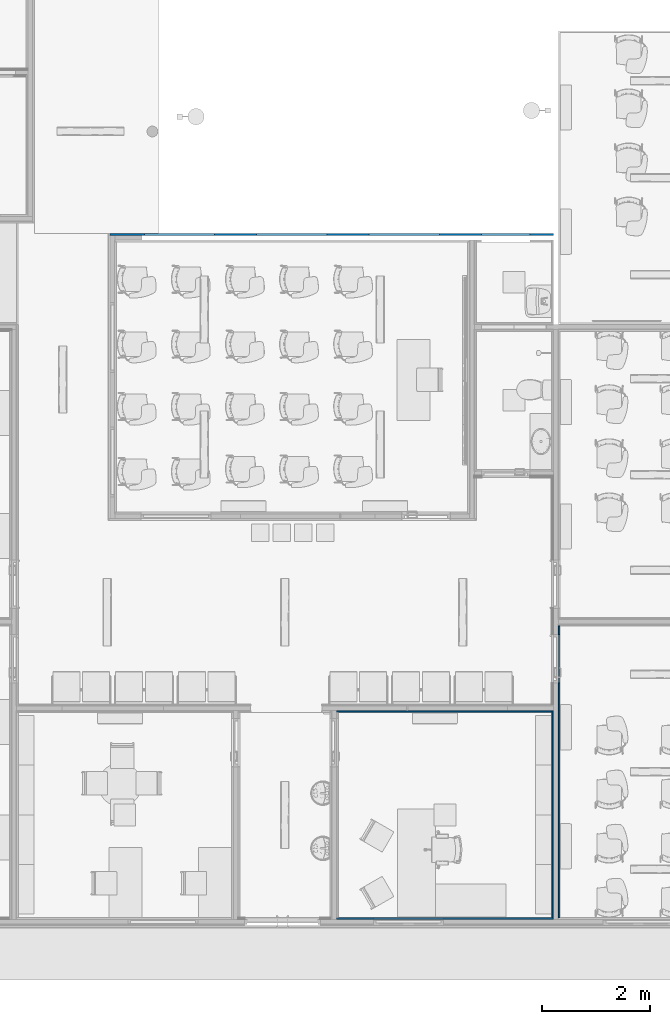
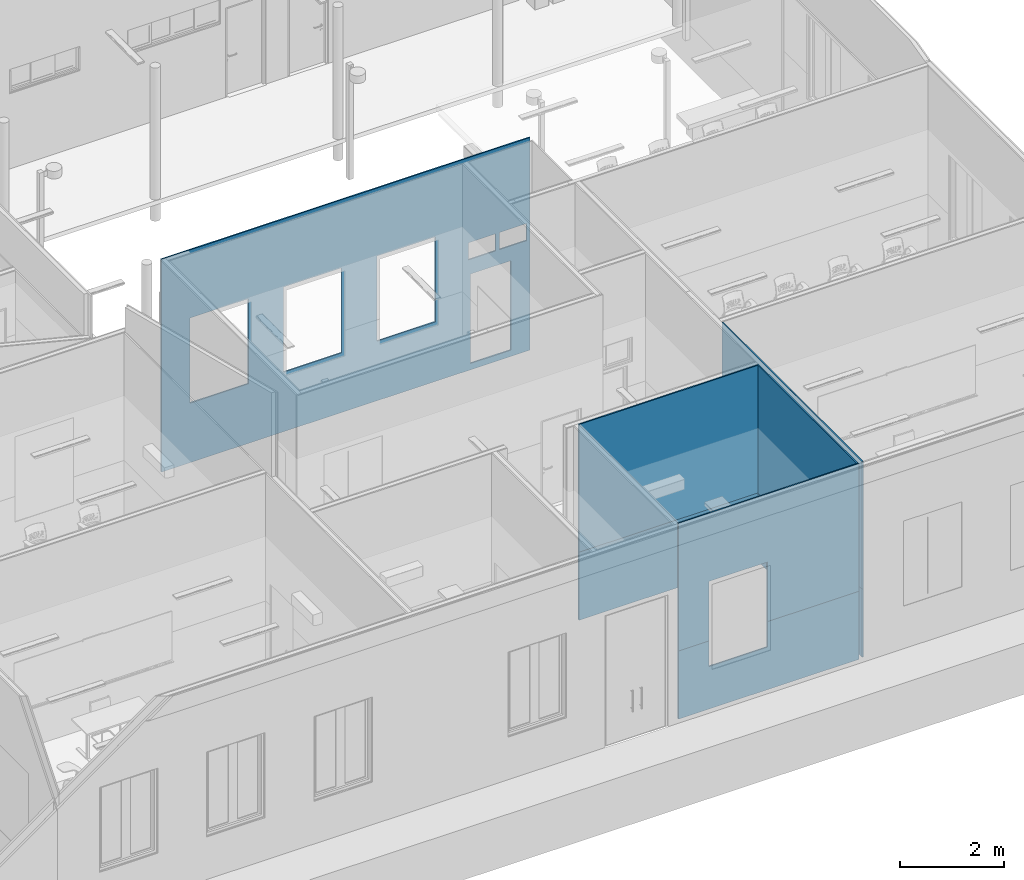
# One storey, part 17 of 155: 9 walls, 32 openings.
"""IFC2X3 building model written with IfcOpenShell, lengths in metres."""

from ifc_helpers import new_model, entity, si_unit, converted_unit, derived_unit, direction, frame, frame_2d, origin, place, context, subcontext, project, spatial, rectangle, extrude, material, layer, layer_set, layer_usage, type_object, element, save


model = new_model("IFC2X3")

# Units and contexts
model_context = context("Model", 3, precision=1e-05, world=origin(), true_north=direction((6.12303176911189e-17, 1.0)))
body_context = subcontext(model_context, "Body", "Model", "MODEL_VIEW")
ifc_project = project(units=[si_unit("LENGTHUNIT", "METRE"), si_unit("AREAUNIT", "SQUARE_METRE"), si_unit("VOLUMEUNIT", "CUBIC_METRE"), converted_unit("PLANEANGLEUNIT", "DEGREE", entity("IfcRatioMeasure", 0.0174532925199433), si_unit("PLANEANGLEUNIT", "RADIAN"), dimensions=[0, 0, 0, 0, 0, 0, 0]), si_unit("MASSUNIT", "GRAM", prefix="KILO"), derived_unit("MASSDENSITYUNIT", [(si_unit("MASSUNIT", "GRAM", prefix="KILO"), 1), (si_unit("LENGTHUNIT", "METRE"), -3)]), si_unit("TIMEUNIT", "SECOND"), si_unit("FREQUENCYUNIT", "HERTZ"), si_unit("THERMODYNAMICTEMPERATUREUNIT", "DEGREE_CELSIUS"), derived_unit("THERMALTRANSMITTANCEUNIT", [(si_unit("MASSUNIT", "GRAM", prefix="KILO"), 1), (si_unit("THERMODYNAMICTEMPERATUREUNIT", "KELVIN"), -1), (si_unit("TIMEUNIT", "SECOND"), -3)]), derived_unit("VOLUMETRICFLOWRATEUNIT", [(si_unit("LENGTHUNIT", "METRE"), 3), (si_unit("TIMEUNIT", "SECOND"), -1)]), si_unit("ELECTRICCURRENTUNIT", "AMPERE"), si_unit("ELECTRICVOLTAGEUNIT", "VOLT"), si_unit("POWERUNIT", "WATT"), si_unit("FORCEUNIT", "NEWTON", prefix="KILO"), si_unit("ILLUMINANCEUNIT", "LUX"), si_unit("LUMINOUSFLUXUNIT", "LUMEN"), si_unit("LUMINOUSINTENSITYUNIT", "CANDELA"), derived_unit("USERDEFINED", [(si_unit("MASSUNIT", "GRAM", prefix="KILO"), -1), (si_unit("LENGTHUNIT", "METRE"), -2), (si_unit("TIMEUNIT", "SECOND"), 3), (si_unit("LUMINOUSFLUXUNIT", "LUMEN"), 1)]), derived_unit("LINEARVELOCITYUNIT", [(si_unit("LENGTHUNIT", "METRE"), 1), (si_unit("TIMEUNIT", "SECOND"), -1)]), si_unit("PRESSUREUNIT", "PASCAL"), derived_unit("USERDEFINED", [(si_unit("LENGTHUNIT", "METRE"), -2), (si_unit("MASSUNIT", "GRAM", prefix="KILO"), 1), (si_unit("TIMEUNIT", "SECOND"), -2)])], contexts=[model_context])

# Site, building, storey
site_placement = place(None, frame((26.9889013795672, -17.5624287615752, 0.0)))
site = spatial("IfcSite", under=ifc_project, at=site_placement, Name="Default", CompositionType="ELEMENT")
building_placement = place(site_placement, origin())
building = spatial("IfcBuilding", under=site, at=building_placement, Name="C. C. L. Monsenhor Antônio Sampaio", CompositionType="ELEMENT")
storey_placement = place(building_placement, frame((0.0, 0.0, 1.19999999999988)))
storey = spatial("IfcBuildingStorey", under=building, at=storey_placement, Name="Nível 1.2", CompositionType="ELEMENT", Elevation=1.19999999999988)

# Wall, openings
ifc_material_1 = material(Name=".CERÂMICA 10x10 BRANCA")
ifc_layer_1 = layer(ifc_material_1, 0.0035)
ifc_material_2 = material(Name="Argamassa Colante")
ifc_layer_2 = layer(ifc_material_2, 0.02)
ifc_material_3 = material(Name="4")
ifc_layer_3 = layer(ifc_material_3, 0.0015)
ifc_material_4 = material(Name="3")
ifc_layer_4 = layer(ifc_material_4, 0.005)
ifc_layer_set_1 = layer_set([ifc_layer_1, ifc_layer_2, ifc_layer_3, ifc_layer_4], Name="Parede básica:ECeramica branca 10x10cm")
ifc_layer_usage_1 = layer_usage(ifc_layer_set_1, "AXIS2", "NEGATIVE", 0.015)
wall_type_1 = type_object("IfcWallType", Name="Parede básica:ECeramica branca 10x10cm", PredefinedType="STANDARD", material=ifc_layer_set_1)
wall_1_placement = place(storey_placement, frame((-0.250552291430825, -39.3180663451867, 0.0)))
wall_1 = element("IfcWallStandardCase", 1, at=wall_1_placement, inside=storey, type_object=wall_type_1, material=ifc_layer_usage_1, Name="Parede básica:ECeramica branca 10x10cm", ObjectType="Parede básica:ECeramica branca 10x10cm", context=body_context, shape_type="SweptSolid", body=[
    extrude(rectangle(XDim=4.01, YDim=0.0299999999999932, at=frame_2d((2.005, 0.0), x_axis=(-1.0, 0.0))), origin(), (0.0, 0.0, 1.0), 1.6),
])
opening_1_placement = place(wall_1_placement, origin())
element("IfcOpeningElement", 2, at=opening_1_placement, cuts=wall_1, Name="Parede básica:ECeramica branca 10x10cm", ObjectType="Opening", context=body_context, shape_type="SweptSolid", body=[
    extrude(rectangle(XDim=2.0, YDim=1.30000000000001, at=frame_2d((0.0, -3.88578058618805e-16), x_axis=(0.0, 1.0))), frame((1.33, -1.539, 2.0), z_axis=(0.0, 1.0, 0.0), x_axis=(-1.0, 0.0, 0.0)), (0.0, 0.0, 1.0), 3.04800000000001),
])
opening_2_placement = place(wall_1_placement, origin())
element("IfcOpeningElement", 3, at=opening_2_placement, cuts=wall_1, Name="Parede básica:ECeramica branca 10x10cm", ObjectType="Opening", context=body_context, shape_type="SweptSolid", body=[
    extrude(rectangle(XDim=3.09999999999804, YDim=1.4, at=frame_2d((-3.33066907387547e-16, 0.0), x_axis=(1.0, 0.0))), frame((-1.0, -1.539, 1.54999999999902), z_axis=(0.0, 1.0, 0.0), x_axis=(0.0, 0.0, 1.0)), (0.0, 0.0, 1.0), 3.04799999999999),
])
opening_3_placement = place(wall_1_placement, origin())
element("IfcOpeningElement", 4, at=opening_3_placement, cuts=wall_1, Name="Parede básica:ECeramica branca 10x10cm", ObjectType="Opening", context=body_context, shape_type="SweptSolid", body=[
    extrude(rectangle(XDim=2.0, YDim=1.30000000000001, at=frame_2d((1.66533453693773e-16, 0.0), x_axis=(1.0, 0.0))), frame((-12.2899999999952, -1.62899999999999, 2.0), z_axis=(0.0, 1.0, 0.0), x_axis=(0.0, 0.0, 1.0)), (0.0, 0.0, 1.0), 3.048),
])
opening_4_placement = place(wall_1_placement, origin())
element("IfcOpeningElement", 5, at=opening_4_placement, cuts=wall_1, Name="Parede básica:ECeramica branca 10x10cm", ObjectType="Opening", context=body_context, shape_type="SweptSolid", body=[
    extrude(rectangle(XDim=2.0, YDim=1.30000000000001, at=frame_2d((1.66533453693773e-16, 0.0), x_axis=(1.0, 0.0))), frame((-9.90999999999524, -1.629, 2.0), z_axis=(0.0, 1.0, 0.0), x_axis=(0.0, 0.0, 1.0)), (0.0, 0.0, 1.0), 3.048),
])
opening_5_placement = place(wall_1_placement, origin())
element("IfcOpeningElement", 6, at=opening_5_placement, cuts=wall_1, Name="Parede básica:ECeramica branca 10x10cm", ObjectType="Opening", context=body_context, shape_type="SweptSolid", body=[
    extrude(rectangle(XDim=2.0, YDim=1.30000000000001, at=frame_2d((1.66533453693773e-16, 0.0), x_axis=(1.0, 0.0))), frame((-7.51999999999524, -1.62899999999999, 2.0), z_axis=(0.0, 1.0, 0.0), x_axis=(0.0, 0.0, 1.0)), (0.0, 0.0, 1.0), 3.048),
])
opening_6_placement = place(wall_1_placement, origin())
element("IfcOpeningElement", 7, at=opening_6_placement, cuts=wall_1, Name="Parede básica:ECeramica branca 10x10cm", ObjectType="Opening", context=body_context, shape_type="SweptSolid", body=[
    extrude(rectangle(XDim=2.0, YDim=1.30000000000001, at=frame_2d((0.0, -3.88578058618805e-16), x_axis=(0.0, 1.0))), frame((-3.21000000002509, -1.62899999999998, 2.0), z_axis=(0.0, 1.0, 0.0), x_axis=(-1.0, 0.0, 0.0)), (0.0, 0.0, 1.0), 3.048),
])
opening_7_placement = place(wall_1_placement, origin())
element("IfcOpeningElement", 8, at=opening_7_placement, cuts=wall_1, Name="Parede básica:ECeramica branca 10x10cm", ObjectType="Opening", context=body_context, shape_type="SweptSolid", body=[
    extrude(rectangle(XDim=2.0, YDim=1.30000000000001, at=frame_2d((5.55111512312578e-16, -3.88578058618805e-16), x_axis=(0.0, 1.0))), frame((5.58, -1.53900000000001, 2.0), z_axis=(0.0, 1.0, 0.0), x_axis=(-1.0, 0.0, 0.0)), (0.0, 0.0, 1.0), 3.04800000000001),
])
opening_8_placement = place(wall_1_placement, origin())
element("IfcOpeningElement", 9, at=opening_8_placement, cuts=wall_1, Name="Parede básica:ECeramica branca 10x10cm", ObjectType="Opening", context=body_context, shape_type="SweptSolid", body=[
    extrude(rectangle(XDim=2.0, YDim=1.30000000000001, at=frame_2d((0.0, -3.88578058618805e-16), x_axis=(0.0, 1.0))), frame((7.96, -1.539, 2.0), z_axis=(0.0, 1.0, 0.0), x_axis=(-1.0, 0.0, 0.0)), (0.0, 0.0, 1.0), 3.048),
])
opening_9_placement = place(wall_1_placement, origin())
element("IfcOpeningElement", 10, at=opening_9_placement, cuts=wall_1, Name="Parede básica:ECeramica branca 10x10cm", ObjectType="Opening", context=body_context, shape_type="SweptSolid", body=[
    extrude(rectangle(XDim=2.0, YDim=1.30000000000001, at=frame_2d((-4.9960036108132e-16, -3.88578058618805e-16), x_axis=(0.0, 1.0))), frame((10.34, -1.53900000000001, 2.0), z_axis=(0.0, 1.0, 0.0), x_axis=(-1.0, 0.0, 0.0)), (0.0, 0.0, 1.0), 3.048),
])

ifc_layer_usage_2 = layer_usage(ifc_layer_set_1, "AXIS2", "NEGATIVE", 0.015)
wall_2_placement = place(storey_placement, frame((3.74444770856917, -39.3030663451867, 0.0), z_axis=(0.0, 0.0, 1.0), x_axis=(0.0, 1.0, 0.0)))
wall_2 = element("IfcWallStandardCase", 11, at=wall_2_placement, inside=storey, type_object=wall_type_1, material=ifc_layer_usage_2, Name="Parede básica:ECeramica branca 10x10cm", ObjectType="Parede básica:ECeramica branca 10x10cm", context=body_context, shape_type="SweptSolid", body=[
    extrude(rectangle(XDim=3.83000000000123, YDim=0.0299999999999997, at=frame_2d((1.91500000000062, 0.0), x_axis=(-1.0, 0.0))), origin(), (0.0, 0.0, 1.0), 1.6),
])
opening_10_placement = place(wall_2_placement, origin())
element("IfcOpeningElement", 12, at=opening_10_placement, cuts=wall_2, Name="Parede básica:ECeramica branca 10x10cm", ObjectType="Opening", context=body_context, shape_type="SweptSolid", body=[
    extrude(rectangle(XDim=2.09999999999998, YDim=0.899999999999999, at=frame_2d((-3.33066907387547e-16, -2.16493489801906e-15), x_axis=(1.0, 0.0))), frame((6.17000000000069, -1.629, 1.04999999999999), z_axis=(0.0, 1.0, 0.0), x_axis=(0.0, 0.0, 1.0)), (0.0, 0.0, 1.0), 3.048),
])
opening_11_placement = place(wall_2_placement, origin())
element("IfcOpeningElement", 13, at=opening_11_placement, cuts=wall_2, Name="Parede básica:ECeramica branca 10x10cm", ObjectType="Opening", context=body_context, shape_type="SweptSolid", body=[
    extrude(rectangle(XDim=2.09999999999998, YDim=0.899999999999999, at=frame_2d((2.16493489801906e-15, 0.0), x_axis=(0.0, 1.0))), frame((4.7900000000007, -1.629, 1.04999999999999), z_axis=(0.0, 1.0, 0.0), x_axis=(-1.0, 0.0, 0.0)), (0.0, 0.0, 1.0), 3.048),
])

# Wall
ifc_layer_usage_3 = layer_usage(ifc_layer_set_1, "AXIS2", "NEGATIVE", 0.015)
wall_3_placement = place(storey_placement, frame((3.72944770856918, -35.4880663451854, 0.0), z_axis=(0.0, 0.0, 1.0), x_axis=(-1.0, 0.0, 0.0)))
element("IfcWallStandardCase", 14, at=wall_3_placement, inside=storey, type_object=wall_type_1, material=ifc_layer_usage_3, Name="Parede básica:ECeramica branca 10x10cm", ObjectType="Parede básica:ECeramica branca 10x10cm", context=body_context, shape_type="SweptSolid", body=[
    extrude(rectangle(XDim=3.98, YDim=0.0300000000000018, at=frame_2d((1.99, 0.0), x_axis=(-1.0, 0.0))), origin(), (0.0, 0.0, 1.0), 1.6),
])

# Wall, openings
ifc_layer_usage_4 = layer_usage(ifc_layer_set_1, "AXIS2", "POSITIVE", -0.015)
wall_4_placement = place(storey_placement, frame((3.86444770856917, -39.3030663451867, 0.0), z_axis=(0.0, 0.0, 1.0), x_axis=(0.0, 1.0, 0.0)))
wall_4 = element("IfcWallStandardCase", 15, at=wall_4_placement, inside=storey, type_object=wall_type_1, material=ifc_layer_usage_4, Name="Parede básica:ECeramica branca 10x10cm", ObjectType="Parede básica:ECeramica branca 10x10cm", context=body_context, shape_type="SweptSolid", body=[
    extrude(rectangle(XDim=5.40000000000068, YDim=0.0299999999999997, at=frame_2d((2.70000000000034, 0.0), x_axis=(-1.0, 0.0))), origin(), (0.0, 0.0, 1.0), 1.6),
])
opening_12_placement = place(wall_4_placement, origin())
element("IfcOpeningElement", 16, at=opening_12_placement, cuts=wall_4, Name="Parede básica:ECeramica branca 10x10cm", ObjectType="Opening", context=body_context, shape_type="SweptSolid", body=[
    extrude(rectangle(XDim=2.09999999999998, YDim=0.899999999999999, at=frame_2d((2.16493489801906e-15, 0.0), x_axis=(0.0, 1.0))), frame((4.7900000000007, -1.509, 1.04999999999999), z_axis=(0.0, 1.0, 0.0), x_axis=(-1.0, 0.0, 0.0)), (0.0, 0.0, 1.0), 3.048),
])
opening_13_placement = place(wall_4_placement, origin())
element("IfcOpeningElement", 17, at=opening_13_placement, cuts=wall_4, Name="Parede básica:ECeramica branca 10x10cm", ObjectType="Opening", context=body_context, shape_type="SweptSolid", body=[
    extrude(rectangle(XDim=2.09999999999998, YDim=0.899999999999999, at=frame_2d((-3.33066907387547e-16, -2.16493489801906e-15), x_axis=(1.0, 0.0))), frame((6.17000000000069, -1.509, 1.04999999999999), z_axis=(0.0, 1.0, 0.0), x_axis=(0.0, 0.0, 1.0)), (0.0, 0.0, 1.0), 3.048),
])

ifc_material_5 = material(Name="Acabamento Branco")
ifc_layer_5 = layer(ifc_material_5, 0.0035)
ifc_material_6 = material(Name="Massa corrida")
ifc_layer_6 = layer(ifc_material_6, 0.02)
ifc_layer_7 = layer(ifc_material_3, 0.0015)
ifc_layer_8 = layer(ifc_material_4, 0.005)
ifc_layer_set_2 = layer_set([ifc_layer_5, ifc_layer_6, ifc_layer_7, ifc_layer_8], Name="Parede básica:EPintura Branca")
ifc_layer_usage_5 = layer_usage(ifc_layer_set_2, "AXIS2", "NEGATIVE", 0.015)
wall_type_2 = type_object("IfcWallType", Name="Parede básica:EPintura Branca", PredefinedType="STANDARD", material=ifc_layer_set_2)
wall_5_placement = place(storey_placement, frame((-0.250552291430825, -39.3180663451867, 1.6)))
wall_5 = element("IfcWallStandardCase", 18, at=wall_5_placement, inside=storey, type_object=wall_type_2, material=ifc_layer_usage_5, Name="Parede básica:EPintura Branca", ObjectType="Parede básica:EPintura Branca", context=body_context, shape_type="SweptSolid", body=[
    extrude(rectangle(XDim=4.01, YDim=0.0299999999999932, at=frame_2d((2.005, 0.0), x_axis=(-1.0, 0.0))), origin(), (0.0, 0.0, 1.0), 3.00000000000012),
])
opening_14_placement = place(wall_5_placement, origin())
element("IfcOpeningElement", 19, at=opening_14_placement, cuts=wall_5, Name="Parede básica:EPintura Branca", ObjectType="Opening", context=body_context, shape_type="SweptSolid", body=[
    extrude(rectangle(XDim=2.0, YDim=1.30000000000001, at=frame_2d((0.0, -3.88578058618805e-16), x_axis=(0.0, 1.0))), frame((1.33, -1.539, 0.400000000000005), z_axis=(0.0, 1.0, 0.0), x_axis=(-1.0, 0.0, 0.0)), (0.0, 0.0, 1.0), 3.04800000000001),
])
opening_15_placement = place(wall_5_placement, origin())
element("IfcOpeningElement", 20, at=opening_15_placement, cuts=wall_5, Name="Parede básica:EPintura Branca", ObjectType="Opening", context=body_context, shape_type="SweptSolid", body=[
    extrude(rectangle(XDim=3.09999999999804, YDim=1.4, at=frame_2d((-3.33066907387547e-16, 0.0), x_axis=(1.0, 0.0))), frame((-1.0, -1.539, -0.0500000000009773), z_axis=(0.0, 1.0, 0.0), x_axis=(0.0, 0.0, 1.0)), (0.0, 0.0, 1.0), 3.04799999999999),
])
opening_16_placement = place(wall_5_placement, origin())
element("IfcOpeningElement", 21, at=opening_16_placement, cuts=wall_5, Name="Parede básica:EPintura Branca", ObjectType="Opening", context=body_context, shape_type="SweptSolid", body=[
    extrude(rectangle(XDim=2.0, YDim=1.30000000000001, at=frame_2d((1.66533453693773e-16, 0.0), x_axis=(1.0, 0.0))), frame((-12.2899999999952, -1.62899999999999, 0.400000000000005), z_axis=(0.0, 1.0, 0.0), x_axis=(0.0, 0.0, 1.0)), (0.0, 0.0, 1.0), 3.048),
])
opening_17_placement = place(wall_5_placement, origin())
element("IfcOpeningElement", 22, at=opening_17_placement, cuts=wall_5, Name="Parede básica:EPintura Branca", ObjectType="Opening", context=body_context, shape_type="SweptSolid", body=[
    extrude(rectangle(XDim=2.0, YDim=1.30000000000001, at=frame_2d((1.66533453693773e-16, 0.0), x_axis=(1.0, 0.0))), frame((-9.90999999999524, -1.629, 0.400000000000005), z_axis=(0.0, 1.0, 0.0), x_axis=(0.0, 0.0, 1.0)), (0.0, 0.0, 1.0), 3.048),
])
opening_18_placement = place(wall_5_placement, origin())
element("IfcOpeningElement", 23, at=opening_18_placement, cuts=wall_5, Name="Parede básica:EPintura Branca", ObjectType="Opening", context=body_context, shape_type="SweptSolid", body=[
    extrude(rectangle(XDim=2.0, YDim=1.30000000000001, at=frame_2d((1.66533453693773e-16, 0.0), x_axis=(1.0, 0.0))), frame((-7.51999999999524, -1.62899999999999, 0.400000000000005), z_axis=(0.0, 1.0, 0.0), x_axis=(0.0, 0.0, 1.0)), (0.0, 0.0, 1.0), 3.048),
])
opening_19_placement = place(wall_5_placement, origin())
element("IfcOpeningElement", 24, at=opening_19_placement, cuts=wall_5, Name="Parede básica:EPintura Branca", ObjectType="Opening", context=body_context, shape_type="SweptSolid", body=[
    extrude(rectangle(XDim=2.0, YDim=1.30000000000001, at=frame_2d((0.0, -3.88578058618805e-16), x_axis=(0.0, 1.0))), frame((-3.21000000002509, -1.62899999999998, 0.400000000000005), z_axis=(0.0, 1.0, 0.0), x_axis=(-1.0, 0.0, 0.0)), (0.0, 0.0, 1.0), 3.048),
])
opening_20_placement = place(wall_5_placement, origin())
element("IfcOpeningElement", 25, at=opening_20_placement, cuts=wall_5, Name="Parede básica:EPintura Branca", ObjectType="Opening", context=body_context, shape_type="SweptSolid", body=[
    extrude(rectangle(XDim=2.0, YDim=1.30000000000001, at=frame_2d((5.55111512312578e-16, -3.88578058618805e-16), x_axis=(0.0, 1.0))), frame((5.58, -1.53900000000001, 0.400000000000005), z_axis=(0.0, 1.0, 0.0), x_axis=(-1.0, 0.0, 0.0)), (0.0, 0.0, 1.0), 3.04800000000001),
])
opening_21_placement = place(wall_5_placement, origin())
element("IfcOpeningElement", 26, at=opening_21_placement, cuts=wall_5, Name="Parede básica:EPintura Branca", ObjectType="Opening", context=body_context, shape_type="SweptSolid", body=[
    extrude(rectangle(XDim=2.0, YDim=1.30000000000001, at=frame_2d((0.0, -3.88578058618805e-16), x_axis=(0.0, 1.0))), frame((7.96, -1.539, 0.400000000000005), z_axis=(0.0, 1.0, 0.0), x_axis=(-1.0, 0.0, 0.0)), (0.0, 0.0, 1.0), 3.048),
])
opening_22_placement = place(wall_5_placement, origin())
element("IfcOpeningElement", 27, at=opening_22_placement, cuts=wall_5, Name="Parede básica:EPintura Branca", ObjectType="Opening", context=body_context, shape_type="SweptSolid", body=[
    extrude(rectangle(XDim=2.0, YDim=1.30000000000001, at=frame_2d((-4.9960036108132e-16, -3.88578058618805e-16), x_axis=(0.0, 1.0))), frame((10.34, -1.53900000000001, 0.400000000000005), z_axis=(0.0, 1.0, 0.0), x_axis=(-1.0, 0.0, 0.0)), (0.0, 0.0, 1.0), 3.048),
])

ifc_layer_usage_6 = layer_usage(ifc_layer_set_2, "AXIS2", "NEGATIVE", 0.015)
wall_6_placement = place(storey_placement, frame((3.74444770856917, -39.3030663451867, 1.6), z_axis=(0.0, 0.0, 1.0), x_axis=(0.0, 1.0, 0.0)))
wall_6 = element("IfcWallStandardCase", 28, at=wall_6_placement, inside=storey, type_object=wall_type_2, material=ifc_layer_usage_6, Name="Parede básica:EPintura Branca", ObjectType="Parede básica:EPintura Branca", context=body_context, shape_type="SweptSolid", body=[
    extrude(rectangle(XDim=3.83000000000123, YDim=0.0299999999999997, at=frame_2d((1.91500000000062, 0.0), x_axis=(-1.0, 0.0))), origin(), (0.0, 0.0, 1.0), 3.00000000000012),
])
opening_23_placement = place(wall_6_placement, origin())
element("IfcOpeningElement", 29, at=opening_23_placement, cuts=wall_6, Name="Parede básica:EPintura Branca", ObjectType="Opening", context=body_context, shape_type="SweptSolid", body=[
    extrude(rectangle(XDim=2.09999999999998, YDim=0.899999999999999, at=frame_2d((-3.33066907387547e-16, -2.16493489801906e-15), x_axis=(1.0, 0.0))), frame((6.17000000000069, -1.629, -0.550000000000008), z_axis=(0.0, 1.0, 0.0), x_axis=(0.0, 0.0, 1.0)), (0.0, 0.0, 1.0), 3.048),
])
opening_24_placement = place(wall_6_placement, origin())
element("IfcOpeningElement", 30, at=opening_24_placement, cuts=wall_6, Name="Parede básica:EPintura Branca", ObjectType="Opening", context=body_context, shape_type="SweptSolid", body=[
    extrude(rectangle(XDim=2.09999999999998, YDim=0.899999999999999, at=frame_2d((2.16493489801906e-15, 0.0), x_axis=(0.0, 1.0))), frame((4.7900000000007, -1.629, -0.550000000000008), z_axis=(0.0, 1.0, 0.0), x_axis=(-1.0, 0.0, 0.0)), (0.0, 0.0, 1.0), 3.048),
])

# Wall
ifc_layer_usage_7 = layer_usage(ifc_layer_set_2, "AXIS2", "NEGATIVE", 0.015)
wall_7_placement = place(storey_placement, frame((3.72944770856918, -35.4880663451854, 1.6), z_axis=(0.0, 0.0, 1.0), x_axis=(-1.0, 0.0, 0.0)))
element("IfcWallStandardCase", 31, at=wall_7_placement, inside=storey, type_object=wall_type_2, material=ifc_layer_usage_7, Name="Parede básica:EPintura Branca", ObjectType="Parede básica:EPintura Branca", context=body_context, shape_type="SweptSolid", body=[
    extrude(rectangle(XDim=3.98, YDim=0.0300000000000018, at=frame_2d((1.99, 0.0), x_axis=(-1.0, 0.0))), origin(), (0.0, 0.0, 1.0), 3.00000000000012),
])

# Wall, openings
ifc_layer_usage_8 = layer_usage(ifc_layer_set_2, "AXIS2", "POSITIVE", -0.015)
wall_8_placement = place(storey_placement, frame((3.86444770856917, -39.3030663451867, 1.6), z_axis=(0.0, 0.0, 1.0), x_axis=(0.0, 1.0, 0.0)))
wall_8 = element("IfcWallStandardCase", 32, at=wall_8_placement, inside=storey, type_object=wall_type_2, material=ifc_layer_usage_8, Name="Parede básica:EPintura Branca", ObjectType="Parede básica:EPintura Branca", context=body_context, shape_type="SweptSolid", body=[
    extrude(rectangle(XDim=5.40000000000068, YDim=0.0299999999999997, at=frame_2d((2.70000000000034, 0.0), x_axis=(-1.0, 0.0))), origin(), (0.0, 0.0, 1.0), 3.00000000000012),
])
opening_25_placement = place(wall_8_placement, origin())
element("IfcOpeningElement", 33, at=opening_25_placement, cuts=wall_8, Name="Parede básica:EPintura Branca", ObjectType="Opening", context=body_context, shape_type="SweptSolid", body=[
    extrude(rectangle(XDim=2.09999999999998, YDim=0.899999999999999, at=frame_2d((2.16493489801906e-15, 0.0), x_axis=(0.0, 1.0))), frame((4.7900000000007, -1.509, -0.550000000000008), z_axis=(0.0, 1.0, 0.0), x_axis=(-1.0, 0.0, 0.0)), (0.0, 0.0, 1.0), 3.048),
])
opening_26_placement = place(wall_8_placement, origin())
element("IfcOpeningElement", 34, at=opening_26_placement, cuts=wall_8, Name="Parede básica:EPintura Branca", ObjectType="Opening", context=body_context, shape_type="SweptSolid", body=[
    extrude(rectangle(XDim=2.09999999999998, YDim=0.899999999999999, at=frame_2d((-3.33066907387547e-16, -2.16493489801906e-15), x_axis=(1.0, 0.0))), frame((6.17000000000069, -1.509, -0.550000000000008), z_axis=(0.0, 1.0, 0.0), x_axis=(0.0, 0.0, 1.0)), (0.0, 0.0, 1.0), 3.048),
])

ifc_material_7 = material(Name="Acabamento amarelo")
ifc_layer_9 = layer(ifc_material_7, 0.0035)
ifc_layer_10 = layer(ifc_material_6, 0.02)
ifc_layer_11 = layer(ifc_material_3, 0.0015)
ifc_layer_12 = layer(ifc_material_4, 0.005)
ifc_layer_set_3 = layer_set([ifc_layer_9, ifc_layer_10, ifc_layer_11, ifc_layer_12], Name="Parede básica:EPintura amarela")
ifc_layer_usage_9 = layer_usage(ifc_layer_set_3, "AXIS2", "NEGATIVE", 0.015)
wall_type_3 = type_object("IfcWallType", Name="Parede básica:EPintura amarela", PredefinedType="STANDARD", material=ifc_layer_set_3)
wall_9_placement = place(storey_placement, frame((-4.47055229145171, -26.6680663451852, -0.400000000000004)))
wall_9 = element("IfcWallStandardCase", 35, at=wall_9_placement, inside=storey, type_object=wall_type_3, material=ifc_layer_usage_9, Name="Parede básica:EPintura amarela", ObjectType="Parede básica:EPintura amarela", context=body_context, shape_type="SweptSolid", body=[
    extrude(rectangle(XDim=8.19992946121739, YDim=0.0300000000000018, at=frame_2d((4.12996473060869, 1.57859836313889e-16), x_axis=(-1.0, 0.0))), origin(), (0.0, 0.0, 1.0), 5.00000000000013),
])
opening_27_placement = place(wall_9_placement, origin())
element("IfcOpeningElement", 36, at=opening_27_placement, cuts=wall_9, Name="Parede básica:EPintura amarela", ObjectType="Opening", context=body_context, shape_type="SweptSolid", body=[
    extrude(rectangle(XDim=2.09999999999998, YDim=0.9, at=frame_2d((-1.11022302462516e-16, 0.0), x_axis=(1.0, 0.0))), frame((7.3500000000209, -1.62899999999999, 1.19999999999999), z_axis=(0.0, 1.0, 0.0), x_axis=(0.0, 0.0, 1.0)), (0.0, 0.0, 1.0), 3.048),
])
opening_28_placement = place(wall_9_placement, origin())
element("IfcOpeningElement", 37, at=opening_28_placement, cuts=wall_9, Name="Parede básica:EPintura amarela", ObjectType="Opening", context=body_context, shape_type="SweptSolid", body=[
    extrude(rectangle(XDim=2.0, YDim=1.30000000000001, at=frame_2d((1.66533453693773e-16, 0.0), x_axis=(1.0, 0.0))), frame((5.4700000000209, -1.53899999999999, 2.40000000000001), z_axis=(0.0, 1.0, 0.0), x_axis=(0.0, 0.0, 1.0)), (0.0, 0.0, 1.0), 3.048),
])
opening_29_placement = place(wall_9_placement, origin())
element("IfcOpeningElement", 38, at=opening_29_placement, cuts=wall_9, Name="Parede básica:EPintura amarela", ObjectType="Opening", context=body_context, shape_type="SweptSolid", body=[
    extrude(rectangle(XDim=2.0, YDim=1.30000000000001, at=frame_2d((-1.11022302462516e-16, -3.88578058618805e-16), x_axis=(0.0, 1.0))), frame((3.3900000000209, -1.53899999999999, 2.40000000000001), z_axis=(0.0, 1.0, 0.0), x_axis=(-1.0, 0.0, 0.0)), (0.0, 0.0, 1.0), 3.048),
])
opening_30_placement = place(wall_9_placement, origin())
element("IfcOpeningElement", 39, at=opening_30_placement, cuts=wall_9, Name="Parede básica:EPintura amarela", ObjectType="Opening", context=body_context, shape_type="SweptSolid", body=[
    extrude(rectangle(XDim=2.0, YDim=1.30000000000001, at=frame_2d((0.0, 3.88578058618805e-16), x_axis=(0.0, 1.0))), frame((1.3150000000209, -1.539, 2.4), z_axis=(0.0, 1.0, 0.0), x_axis=(-1.0, 0.0, 0.0)), (0.0, 0.0, 1.0), 3.048),
])
opening_31_placement = place(wall_9_placement, origin())
element("IfcOpeningElement", 40, at=opening_31_placement, cuts=wall_9, Name="Parede básica:EPintura amarela", ObjectType="Opening", context=body_context, shape_type="SweptSolid", body=[
    extrude(rectangle(XDim=0.400000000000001, YDim=0.6, at=frame_2d((-2.77555756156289e-16, 2.77555756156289e-16), x_axis=(0.0, 1.0))), frame((7.84992946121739, -1.539, 2.8), z_axis=(0.0, 1.0, 0.0), x_axis=(-1.0, 0.0, 0.0)), (0.0, 0.0, 1.0), 3.048),
])
opening_32_placement = place(wall_9_placement, origin())
element("IfcOpeningElement", 41, at=opening_32_placement, cuts=wall_9, Name="Parede básica:EPintura amarela", ObjectType="Opening", context=body_context, shape_type="SweptSolid", body=[
    extrude(rectangle(XDim=0.400000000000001, YDim=0.6, at=frame_2d((-2.77555756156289e-16, 1.38777878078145e-16), x_axis=(1.0, 0.0))), frame((7.15995787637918, -1.62899999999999, 2.8), z_axis=(0.0, 1.0, 0.0), x_axis=(0.0, 0.0, 1.0)), (0.0, 0.0, 1.0), 3.048),
])

save(model, "model.ifc")
